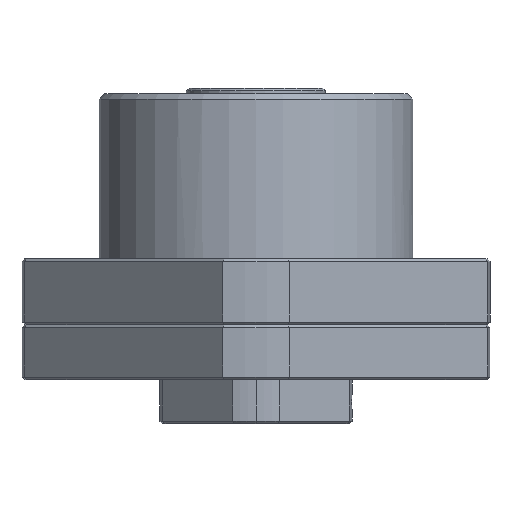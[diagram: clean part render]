
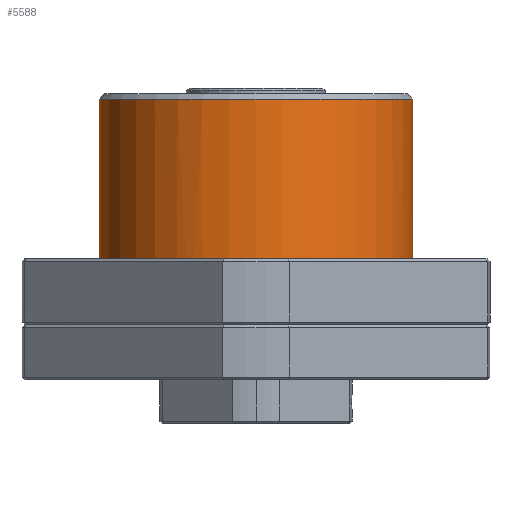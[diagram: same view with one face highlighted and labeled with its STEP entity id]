
A CAD part, front view. The second image highlights one B-rep face of the part: STEP entity #5588.
In plain terms, the highlighted cylindrical face has radius 28.5 mm (diameter 57 mm), a partial arc.
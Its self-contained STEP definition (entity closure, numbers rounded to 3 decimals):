
#56 = EDGE_CURVE ( 'NONE', #12382, #3174, #2205, .T. ) ;
#504 = DIRECTION ( 'NONE',  ( 0., 0., 1. ) ) ;
#505 = DIRECTION ( 'NONE',  ( 0., 0., 1. ) ) ;
#715 = CARTESIAN_POINT ( 'NONE',  ( -28.5, 0., 12. ) ) ;
#1113 = CARTESIAN_POINT ( 'NONE',  ( -28.5, 0., 41. ) ) ;
#1230 = CIRCLE ( 'NONE', #8541, 28.5 ) ;
#1315 = LINE ( 'NONE', #13732, #9758 ) ;
#1714 = CARTESIAN_POINT ( 'NONE',  ( 28.5, 0., 31.652 ) ) ;
#2205 = CIRCLE ( 'NONE', #12204, 28.5 ) ;
#2285 = EDGE_CURVE ( 'NONE', #2538, #9169, #7975, .T. ) ;
#2538 = VERTEX_POINT ( 'NONE', #15956 ) ;
#3174 = VERTEX_POINT ( 'NONE', #15976 ) ;
#3344 = EDGE_CURVE ( 'NONE', #6535, #9316, #1315, .T. ) ;
#3649 = VERTEX_POINT ( 'NONE', #14176 ) ;
#3909 = DIRECTION ( 'NONE',  ( 0., 0., -1. ) ) ;
#3942 = CARTESIAN_POINT ( 'NONE',  ( -9.713, -26.794, 12. ) ) ;
#3963 = ORIENTED_EDGE ( 'NONE', *, *, #2285, .T. ) ;
#4000 = ORIENTED_EDGE ( 'NONE', *, *, #13699, .T. ) ;
#4193 = ORIENTED_EDGE ( 'NONE', *, *, #10872, .T. ) ;
#4365 = CARTESIAN_POINT ( 'NONE',  ( 0., 0., 12. ) ) ;
#4369 = DIRECTION ( 'NONE',  ( 0., 0., 1. ) ) ;
#4389 = DIRECTION ( 'NONE',  ( 1., 0., 0. ) ) ;
#4789 = EDGE_CURVE ( 'NONE', #6535, #3649, #1230, .T. ) ;
#4839 = CIRCLE ( 'NONE', #5323, 28.5 ) ;
#5323 = AXIS2_PLACEMENT_3D ( 'NONE', #12464, #12521, #12528 ) ;
#5415 = AXIS2_PLACEMENT_3D ( 'NONE', #15345, #3909, #9135 ) ;
#5548 = CIRCLE ( 'NONE', #7499, 28.5 ) ;
#5588 = ADVANCED_FACE ( 'NONE', ( #7033 ), #6854, .T. ) ;
#5608 = DIRECTION ( 'NONE',  ( 0., 0., 1. ) ) ;
#6535 = VERTEX_POINT ( 'NONE', #715 ) ;
#6766 = CARTESIAN_POINT ( 'NONE',  ( 28.5, 0., 41. ) ) ;
#6854 = CYLINDRICAL_SURFACE ( 'NONE', #8484, 28.5 ) ;
#7033 = FACE_OUTER_BOUND ( 'NONE', #15094, .T. ) ;
#7499 = AXIS2_PLACEMENT_3D ( 'NONE', #4365, #4369, #4389 ) ;
#7975 = LINE ( 'NONE', #1714, #11270 ) ;
#8121 = ORIENTED_EDGE ( 'NONE', *, *, #4789, .T. ) ;
#8456 = CIRCLE ( 'NONE', #13385, 28.5 ) ;
#8484 = AXIS2_PLACEMENT_3D ( 'NONE', #10598, #16440, #13061 ) ;
#8541 = AXIS2_PLACEMENT_3D ( 'NONE', #16024, #13078, #9483 ) ;
#9135 = DIRECTION ( 'NONE',  ( -1., 0., 0. ) ) ;
#9169 = VERTEX_POINT ( 'NONE', #6766 ) ;
#9316 = VERTEX_POINT ( 'NONE', #1113 ) ;
#9483 = DIRECTION ( 'NONE',  ( 1., 0., 0. ) ) ;
#9758 = VECTOR ( 'NONE', #5608, 1000. ) ;
#10036 = VERTEX_POINT ( 'NONE', #11716 ) ;
#10598 = CARTESIAN_POINT ( 'NONE',  ( 0., 0., 31.652 ) ) ;
#10651 = CIRCLE ( 'NONE', #5415, 28.5 ) ;
#10872 = EDGE_CURVE ( 'NONE', #9169, #9316, #10651, .T. ) ;
#11117 = ORIENTED_EDGE ( 'NONE', *, *, #3344, .F. ) ;
#11258 = CARTESIAN_POINT ( 'NONE',  ( 0., 0., 12. ) ) ;
#11270 = VECTOR ( 'NONE', #505, 1000. ) ;
#11441 = CARTESIAN_POINT ( 'NONE',  ( 0., 0., 12. ) ) ;
#11493 = DIRECTION ( 'NONE',  ( 0., 0., 1. ) ) ;
#11497 = DIRECTION ( 'NONE',  ( 1., 0., 0. ) ) ;
#11716 = CARTESIAN_POINT ( 'NONE',  ( 26.794, -9.713, 12. ) ) ;
#12078 = ORIENTED_EDGE ( 'NONE', *, *, #14149, .T. ) ;
#12178 = DIRECTION ( 'NONE',  ( 1., 0., 0. ) ) ;
#12204 = AXIS2_PLACEMENT_3D ( 'NONE', #11258, #504, #12178 ) ;
#12382 = VERTEX_POINT ( 'NONE', #3942 ) ;
#12464 = CARTESIAN_POINT ( 'NONE',  ( 0., 0., 12. ) ) ;
#12521 = DIRECTION ( 'NONE',  ( 0., 0., 1. ) ) ;
#12528 = DIRECTION ( 'NONE',  ( 1., 0., 0. ) ) ;
#12532 = EDGE_CURVE ( 'NONE', #3174, #10036, #8456, .T. ) ;
#12544 = ORIENTED_EDGE ( 'NONE', *, *, #56, .T. ) ;
#13061 = DIRECTION ( 'NONE',  ( 1., 0., 0. ) ) ;
#13078 = DIRECTION ( 'NONE',  ( 0., 0., 1. ) ) ;
#13385 = AXIS2_PLACEMENT_3D ( 'NONE', #11441, #11493, #11497 ) ;
#13699 = EDGE_CURVE ( 'NONE', #3649, #12382, #5548, .T. ) ;
#13732 = CARTESIAN_POINT ( 'NONE',  ( -28.5, 0., 31.652 ) ) ;
#14149 = EDGE_CURVE ( 'NONE', #10036, #2538, #4839, .T. ) ;
#14176 = CARTESIAN_POINT ( 'NONE',  ( -14.282, -24.663, 12. ) ) ;
#15094 = EDGE_LOOP ( 'NONE', ( #11117, #8121, #4000, #12544, #15280, #12078, #3963, #4193 ) ) ;
#15280 = ORIENTED_EDGE ( 'NONE', *, *, #12532, .T. ) ;
#15345 = CARTESIAN_POINT ( 'NONE',  ( 0., 0., 41. ) ) ;
#15956 = CARTESIAN_POINT ( 'NONE',  ( 28.5, 0., 12. ) ) ;
#15976 = CARTESIAN_POINT ( 'NONE',  ( 24.663, -14.282, 12. ) ) ;
#16024 = CARTESIAN_POINT ( 'NONE',  ( 0., 0., 12. ) ) ;
#16440 = DIRECTION ( 'NONE',  ( 0., 0., 1. ) ) ;
